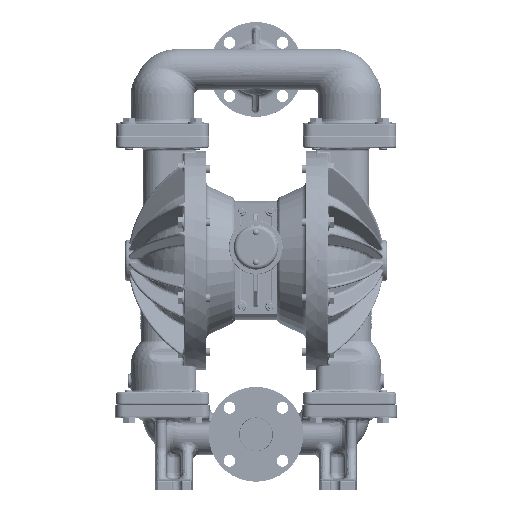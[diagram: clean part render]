
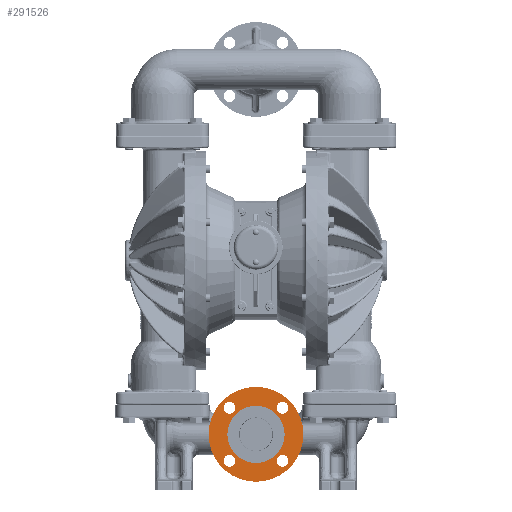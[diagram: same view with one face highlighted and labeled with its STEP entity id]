
A CAD part, top view. The second image highlights one B-rep face of the part: STEP entity #291526.
In plain terms, the highlighted planar face has unit normal (0, 0, 1).
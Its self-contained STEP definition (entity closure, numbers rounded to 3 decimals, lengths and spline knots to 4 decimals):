
#812 = EDGE_CURVE ( 'NONE', #381703, #220266, #346605, .T. ) ;
#5634 = EDGE_LOOP ( 'NONE', ( #333443, #247322 ) ) ;
#9052 = CARTESIAN_POINT ( 'NONE',  ( -1.6794, -12.6844, 4.5 ) ) ;
#9883 = VERTEX_POINT ( 'NONE', #426315 ) ;
#10975 = DIRECTION ( 'NONE',  ( 0., 1., 0. ) ) ;
#12940 = EDGE_CURVE ( 'NONE', #30726, #286099, #297352, .T. ) ;
#15815 = DIRECTION ( 'NONE',  ( 0., 0., -1. ) ) ;
#23886 = FACE_BOUND ( 'NONE', #166211, .T. ) ;
#24768 = EDGE_LOOP ( 'NONE', ( #420614, #345163 ) ) ;
#26428 = AXIS2_PLACEMENT_3D ( 'NONE', #9052, #335304, #368515 ) ;
#26891 = EDGE_CURVE ( 'NONE', #9883, #395320, #83105, .T. ) ;
#28161 = CARTESIAN_POINT ( 'NONE',  ( 0., -11.005, 4.5 ) ) ;
#30408 = FACE_BOUND ( 'NONE', #24768, .T. ) ;
#30726 = VERTEX_POINT ( 'NONE', #226111 ) ;
#31752 = CARTESIAN_POINT ( 'NONE',  ( 1.6794, -12.6844, 4.5 ) ) ;
#32592 = DIRECTION ( 'NONE',  ( 0., 0., 1. ) ) ;
#44195 = CARTESIAN_POINT ( 'NONE',  ( 0., -11.005, 4.5 ) ) ;
#54275 = CIRCLE ( 'NONE', #110895, 0.375 ) ;
#56645 = DIRECTION ( 'NONE',  ( 0., -1., 0. ) ) ;
#57075 = DIRECTION ( 'NONE',  ( 0., 1., 0. ) ) ;
#61643 = CARTESIAN_POINT ( 'NONE',  ( 2.0544, -9.3256, 4.5 ) ) ;
#66171 = CARTESIAN_POINT ( 'NONE',  ( 0., -14.005, 4.5 ) ) ;
#68457 = ORIENTED_EDGE ( 'NONE', *, *, #373434, .F. ) ;
#71035 = AXIS2_PLACEMENT_3D ( 'NONE', #311948, #210185, #143727 ) ;
#75135 = VERTEX_POINT ( 'NONE', #61643 ) ;
#83105 = CIRCLE ( 'NONE', #26428, 0.375 ) ;
#84994 = AXIS2_PLACEMENT_3D ( 'NONE', #366520, #229292, #56645 ) ;
#85101 = CIRCLE ( 'NONE', #269001, 0.375 ) ;
#86669 = CARTESIAN_POINT ( 'NONE',  ( 0., -11.005, 4.5 ) ) ;
#90954 = DIRECTION ( 'NONE',  ( 1., 0., 0. ) ) ;
#92362 = VERTEX_POINT ( 'NONE', #342113 ) ;
#92704 = ORIENTED_EDGE ( 'NONE', *, *, #354691, .F. ) ;
#92848 = EDGE_CURVE ( 'NONE', #30726, #286099, #433526, .T. ) ;
#96927 = PLANE ( 'NONE',  #193097 ) ;
#98866 = EDGE_CURVE ( 'NONE', #395320, #9883, #299031, .T. ) ;
#100762 = CARTESIAN_POINT ( 'NONE',  ( -1.6794, -8.9506, 4.5 ) ) ;
#110895 = AXIS2_PLACEMENT_3D ( 'NONE', #183647, #354067, #256548 ) ;
#118011 = AXIS2_PLACEMENT_3D ( 'NONE', #285829, #420881, #323401 ) ;
#121206 = VERTEX_POINT ( 'NONE', #362519 ) ;
#128013 = FACE_OUTER_BOUND ( 'NONE', #343550, .T. ) ;
#138051 = DIRECTION ( 'NONE',  ( 0., 0., 1. ) ) ;
#143727 = DIRECTION ( 'NONE',  ( 0., 1., 0. ) ) ;
#159160 = CARTESIAN_POINT ( 'NONE',  ( 0., -8.005, 4.5 ) ) ;
#165553 = DIRECTION ( 'NONE',  ( 1., 0., 0. ) ) ;
#166211 = EDGE_LOOP ( 'NONE', ( #68457, #388842 ) ) ;
#176940 = CIRCLE ( 'NONE', #84994, 0.375 ) ;
#182928 = VERTEX_POINT ( 'NONE', #100762 ) ;
#183647 = CARTESIAN_POINT ( 'NONE',  ( 1.6794, -9.3256, 4.5 ) ) ;
#189148 = EDGE_CURVE ( 'NONE', #220266, #381703, #382570, .T. ) ;
#193097 = AXIS2_PLACEMENT_3D ( 'NONE', #402392, #32592, #165553 ) ;
#200976 = FACE_BOUND ( 'NONE', #280488, .T. ) ;
#204642 = AXIS2_PLACEMENT_3D ( 'NONE', #325642, #259221, #90954 ) ;
#205122 = CIRCLE ( 'NONE', #353692, 0.375 ) ;
#206495 = CARTESIAN_POINT ( 'NONE',  ( 0., -12.815, 4.5 ) ) ;
#210185 = DIRECTION ( 'NONE',  ( 0., 0., 1. ) ) ;
#216923 = CIRCLE ( 'NONE', #118011, 0.375 ) ;
#220266 = VERTEX_POINT ( 'NONE', #66171 ) ;
#224451 = DIRECTION ( 'NONE',  ( 1., 0., 0. ) ) ;
#226111 = CARTESIAN_POINT ( 'NONE',  ( 0., -9.195, 4.5 ) ) ;
#226337 = ORIENTED_EDGE ( 'NONE', *, *, #92848, .T. ) ;
#229292 = DIRECTION ( 'NONE',  ( 0., 0., 1. ) ) ;
#234425 = VERTEX_POINT ( 'NONE', #270193 ) ;
#235472 = DIRECTION ( 'NONE',  ( 0., -1., 0. ) ) ;
#235568 = EDGE_CURVE ( 'NONE', #121206, #380761, #205122, .T. ) ;
#238080 = CARTESIAN_POINT ( 'NONE',  ( -1.6794, -9.3256, 4.5 ) ) ;
#247322 = ORIENTED_EDGE ( 'NONE', *, *, #235568, .F. ) ;
#256548 = DIRECTION ( 'NONE',  ( -1., 0., 0. ) ) ;
#259221 = DIRECTION ( 'NONE',  ( 0., 0., 1. ) ) ;
#269001 = AXIS2_PLACEMENT_3D ( 'NONE', #238080, #344312, #373109 ) ;
#270193 = CARTESIAN_POINT ( 'NONE',  ( 1.3044, -9.3256, 4.5 ) ) ;
#272509 = EDGE_CURVE ( 'NONE', #380761, #121206, #216923, .T. ) ;
#280488 = EDGE_LOOP ( 'NONE', ( #226337, #317045 ) ) ;
#285829 = CARTESIAN_POINT ( 'NONE',  ( 1.6794, -12.6844, 4.5 ) ) ;
#285976 = DIRECTION ( 'NONE',  ( 0., -1., 0. ) ) ;
#286099 = VERTEX_POINT ( 'NONE', #206495 ) ;
#291526 = ADVANCED_FACE ( 'NONE', ( #128013, #200976, #23886, #335987, #30408, #331637 ), #96927, .T. ) ;
#297352 = CIRCLE ( 'NONE', #71035, 1.81 ) ;
#297424 = CARTESIAN_POINT ( 'NONE',  ( -1.6794, -12.6844, 4.5 ) ) ;
#298330 = DIRECTION ( 'NONE',  ( 0., 0., -1. ) ) ;
#299031 = CIRCLE ( 'NONE', #412145, 0.375 ) ;
#300380 = EDGE_CURVE ( 'NONE', #182928, #92362, #85101, .T. ) ;
#304429 = CARTESIAN_POINT ( 'NONE',  ( 1.6794, -12.3094, 4.5 ) ) ;
#309138 = ORIENTED_EDGE ( 'NONE', *, *, #812, .F. ) ;
#311948 = CARTESIAN_POINT ( 'NONE',  ( 0., -11.005, 4.5 ) ) ;
#317045 = ORIENTED_EDGE ( 'NONE', *, *, #12940, .F. ) ;
#323401 = DIRECTION ( 'NONE',  ( 0., 1., 0. ) ) ;
#325642 = CARTESIAN_POINT ( 'NONE',  ( 1.6794, -9.3256, 4.5 ) ) ;
#331637 = FACE_BOUND ( 'NONE', #413803, .T. ) ;
#332993 = AXIS2_PLACEMENT_3D ( 'NONE', #86669, #15815, #285976 ) ;
#333443 = ORIENTED_EDGE ( 'NONE', *, *, #272509, .F. ) ;
#335304 = DIRECTION ( 'NONE',  ( 0., 0., 1. ) ) ;
#335987 = FACE_BOUND ( 'NONE', #5634, .T. ) ;
#342113 = CARTESIAN_POINT ( 'NONE',  ( -1.6794, -9.7006, 4.5 ) ) ;
#343550 = EDGE_LOOP ( 'NONE', ( #389512, #309138 ) ) ;
#344312 = DIRECTION ( 'NONE',  ( 0., 0., 1. ) ) ;
#345163 = ORIENTED_EDGE ( 'NONE', *, *, #26891, .F. ) ;
#346605 = CIRCLE ( 'NONE', #353589, 3. ) ;
#349798 = DIRECTION ( 'NONE',  ( 0., 0., -1. ) ) ;
#353589 = AXIS2_PLACEMENT_3D ( 'NONE', #28161, #298330, #57075 ) ;
#353692 = AXIS2_PLACEMENT_3D ( 'NONE', #31752, #138051, #235472 ) ;
#354067 = DIRECTION ( 'NONE',  ( 0., 0., 1. ) ) ;
#354691 = EDGE_CURVE ( 'NONE', #92362, #182928, #176940, .T. ) ;
#355515 = AXIS2_PLACEMENT_3D ( 'NONE', #44195, #349798, #10975 ) ;
#362519 = CARTESIAN_POINT ( 'NONE',  ( 1.6794, -13.0594, 4.5 ) ) ;
#366520 = CARTESIAN_POINT ( 'NONE',  ( -1.6794, -9.3256, 4.5 ) ) ;
#368515 = DIRECTION ( 'NONE',  ( -1., 0., 0. ) ) ;
#373109 = DIRECTION ( 'NONE',  ( 0., 1., 0. ) ) ;
#373434 = EDGE_CURVE ( 'NONE', #234425, #75135, #54275, .T. ) ;
#380761 = VERTEX_POINT ( 'NONE', #304429 ) ;
#381703 = VERTEX_POINT ( 'NONE', #159160 ) ;
#382570 = CIRCLE ( 'NONE', #332993, 3. ) ;
#388842 = ORIENTED_EDGE ( 'NONE', *, *, #408766, .F. ) ;
#389512 = ORIENTED_EDGE ( 'NONE', *, *, #189148, .F. ) ;
#395320 = VERTEX_POINT ( 'NONE', #398628 ) ;
#398628 = CARTESIAN_POINT ( 'NONE',  ( -1.3044, -12.6844, 4.5 ) ) ;
#402392 = CARTESIAN_POINT ( 'NONE',  ( 0., -11.005, 4.5 ) ) ;
#402450 = CIRCLE ( 'NONE', #204642, 0.375 ) ;
#408766 = EDGE_CURVE ( 'NONE', #75135, #234425, #402450, .T. ) ;
#412145 = AXIS2_PLACEMENT_3D ( 'NONE', #297424, #432452, #224451 ) ;
#413803 = EDGE_LOOP ( 'NONE', ( #92704, #426378 ) ) ;
#420614 = ORIENTED_EDGE ( 'NONE', *, *, #98866, .F. ) ;
#420881 = DIRECTION ( 'NONE',  ( 0., 0., 1. ) ) ;
#426315 = CARTESIAN_POINT ( 'NONE',  ( -2.0544, -12.6844, 4.5 ) ) ;
#426378 = ORIENTED_EDGE ( 'NONE', *, *, #300380, .F. ) ;
#432452 = DIRECTION ( 'NONE',  ( 0., 0., 1. ) ) ;
#433526 = CIRCLE ( 'NONE', #355515, 1.81 ) ;
